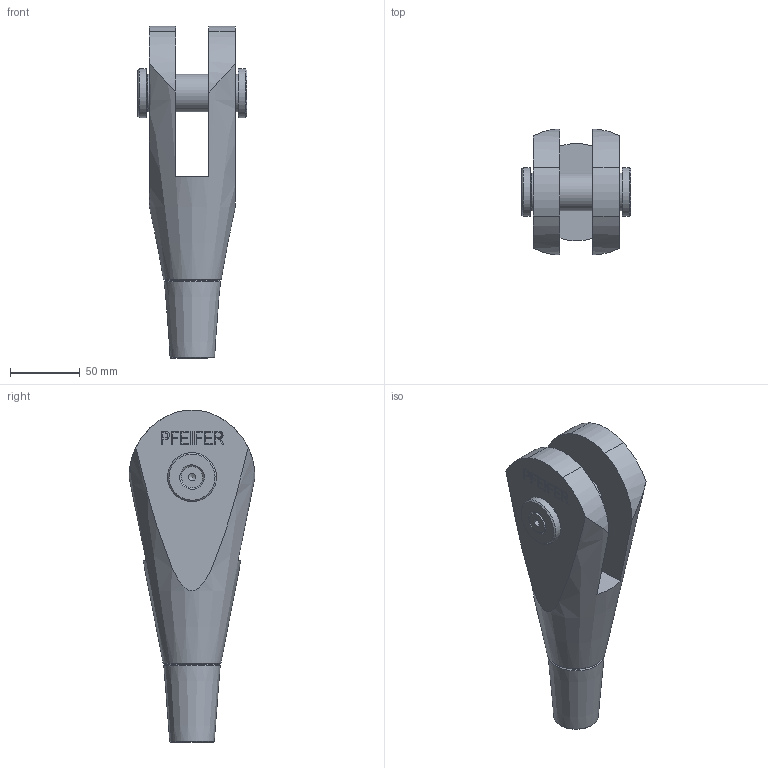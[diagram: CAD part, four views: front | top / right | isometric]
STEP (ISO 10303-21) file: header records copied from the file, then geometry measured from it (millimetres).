
FILE_DESCRIPTION(/* description */ (''),/* implementation_level */ '2;1');
FILE_NAME(/* name */ 'C:\Vault_WS\Designs\520-027-GAK.stp',/* time_stamp */ '2020-06-25T07:47:23+02:00',/* author */ ('schwarz'),/* organization */ (''),/* preprocessor_version */ 'ST-DEVELOPER v16.1',/* originating_system */ 'Autodesk Inventor 2016',/* authorisation */ '');
FILE_SCHEMA (('AUTOMOTIVE_DESIGN { 1 0 10303 214 3 1 1 }'));
Length unit declared in the file: centimetre
Products named in the file (1): 520-027-GAK-KMU-Kunde
Bounding box: 78.51 x 90.08 x 237.5 mm (x, y, z)
Volume: 513456.4 mm3; surface area: 76963.6 mm2
Topology: 2 solids, 3 shells, 187 faces, 482 edges, 319 vertices
Faces by surface type: plane 137, bspline 21, cylinder 16, cone 13
Full cylindrical faces by diameter (mm): 6.647 x1, 8 x1, 9 x1, 15.24 x1, 27 x1, 28.5 x1, 30 x2, 35 x2
Entity records: 5789 total; most frequent: CARTESIAN_POINT 1275, ORIENTED_EDGE 902, DIRECTION 772, EDGE_CURVE 451, LINE 348, VECTOR 348, VERTEX_POINT 311, EDGE_LOOP 232
